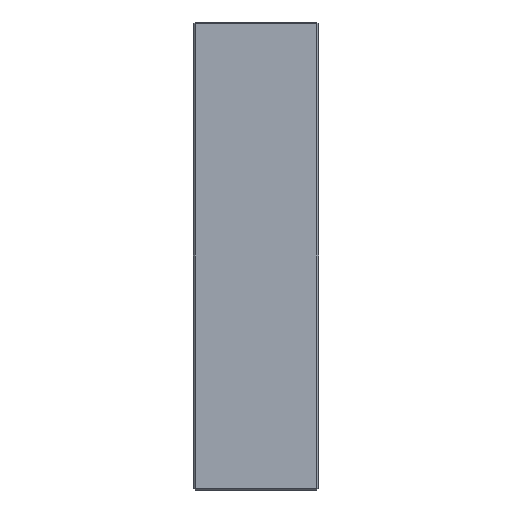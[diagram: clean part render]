
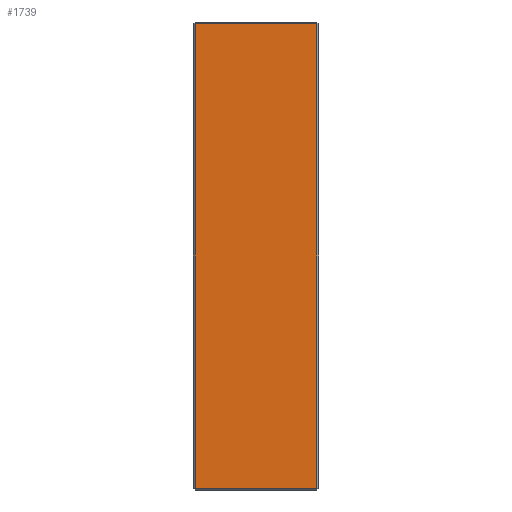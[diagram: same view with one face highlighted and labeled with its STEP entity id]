
A CAD part, left-side view. The second image highlights one B-rep face of the part: STEP entity #1739.
In plain terms, the highlighted planar face has unit normal (-1, 0, 0).
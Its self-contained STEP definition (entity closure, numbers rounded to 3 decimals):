
#211 = DIRECTION ( 'NONE',  ( 0., 0., 1. ) ) ;
#409 = DIRECTION ( 'NONE',  ( 0., 0., -1. ) ) ;
#708 = VERTEX_POINT ( 'NONE', #1817 ) ;
#710 = FACE_OUTER_BOUND ( 'NONE', #2332, .T. ) ;
#821 = EDGE_CURVE ( 'NONE', #1783, #1790, #2353, .T. ) ;
#1028 = VECTOR ( 'NONE', #211, 1000. ) ;
#1050 = EDGE_CURVE ( 'NONE', #708, #1783, #2116, .T. ) ;
#1062 = LINE ( 'NONE', #1269, #1028 ) ;
#1063 = DIRECTION ( 'NONE',  ( 0., 1., 0. ) ) ;
#1068 = ORIENTED_EDGE ( 'NONE', *, *, #1189, .T. ) ;
#1071 = CARTESIAN_POINT ( 'NONE',  ( -123., 1., 122. ) ) ;
#1115 = ORIENTED_EDGE ( 'NONE', *, *, #821, .T. ) ;
#1118 = ORIENTED_EDGE ( 'NONE', *, *, #1340, .T. ) ;
#1132 = CARTESIAN_POINT ( 'NONE',  ( -123., 65., 123. ) ) ;
#1153 = DIRECTION ( 'NONE',  ( 0., 0., -1. ) ) ;
#1154 = AXIS2_PLACEMENT_3D ( 'NONE', #1321, #1282, #1153 ) ;
#1189 = EDGE_CURVE ( 'NONE', #1753, #708, #1512, .T. ) ;
#1255 = CARTESIAN_POINT ( 'NONE',  ( -123., 66., 122. ) ) ;
#1269 = CARTESIAN_POINT ( 'NONE',  ( -123., 1., 123. ) ) ;
#1282 = DIRECTION ( 'NONE',  ( 1., 0., 0. ) ) ;
#1321 = CARTESIAN_POINT ( 'NONE',  ( -123., 66., 123. ) ) ;
#1340 = EDGE_CURVE ( 'NONE', #1790, #1753, #1062, .T. ) ;
#1370 = PLANE ( 'NONE',  #1154 ) ;
#1478 = VECTOR ( 'NONE', #1063, 1000. ) ;
#1512 = LINE ( 'NONE', #1255, #1478 ) ;
#1739 = ADVANCED_FACE ( 'NONE', ( #710 ), #1370, .F. ) ;
#1753 = VERTEX_POINT ( 'NONE', #1071 ) ;
#1783 = VERTEX_POINT ( 'NONE', #2440 ) ;
#1790 = VERTEX_POINT ( 'NONE', #2389 ) ;
#1817 = CARTESIAN_POINT ( 'NONE',  ( -123., 65., 122. ) ) ;
#1959 = VECTOR ( 'NONE', #409, 1000. ) ;
#1976 = DIRECTION ( 'NONE',  ( 0., -1., 0. ) ) ;
#2032 = ORIENTED_EDGE ( 'NONE', *, *, #1050, .T. ) ;
#2116 = LINE ( 'NONE', #1132, #1959 ) ;
#2326 = VECTOR ( 'NONE', #1976, 1000. ) ;
#2332 = EDGE_LOOP ( 'NONE', ( #1068, #2032, #1115, #1118 ) ) ;
#2353 = LINE ( 'NONE', #2507, #2326 ) ;
#2389 = CARTESIAN_POINT ( 'NONE',  ( -123., 1., -122. ) ) ;
#2440 = CARTESIAN_POINT ( 'NONE',  ( -123., 65., -122. ) ) ;
#2507 = CARTESIAN_POINT ( 'NONE',  ( -123., 66., -122. ) ) ;
